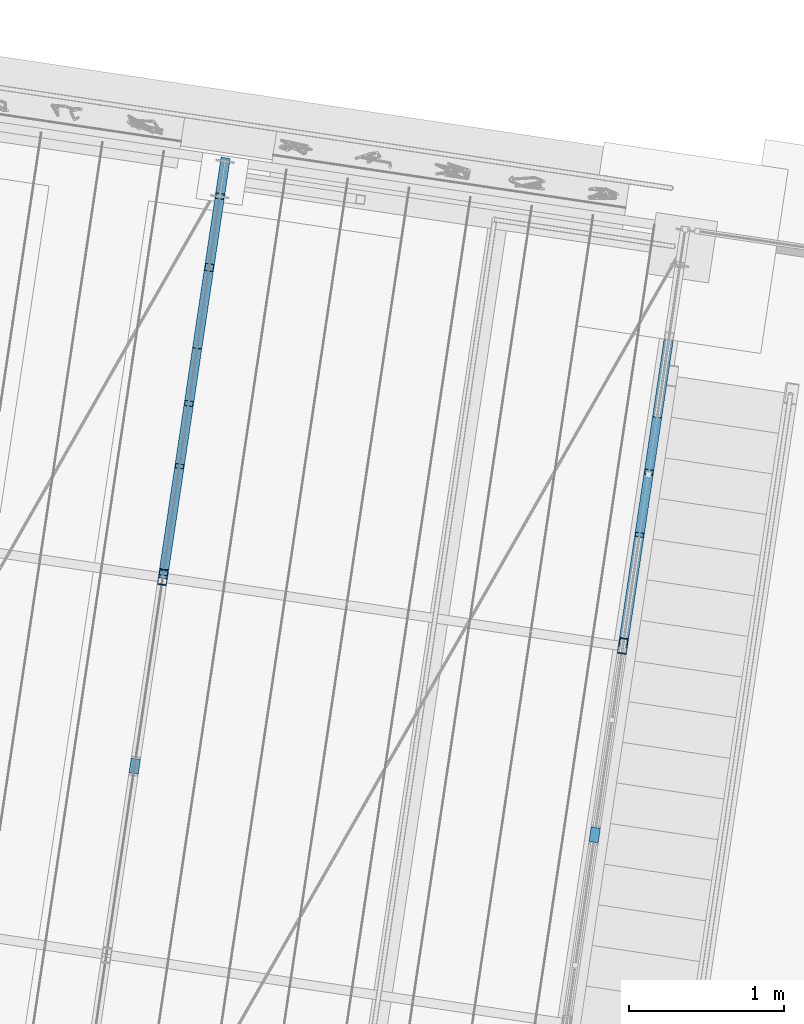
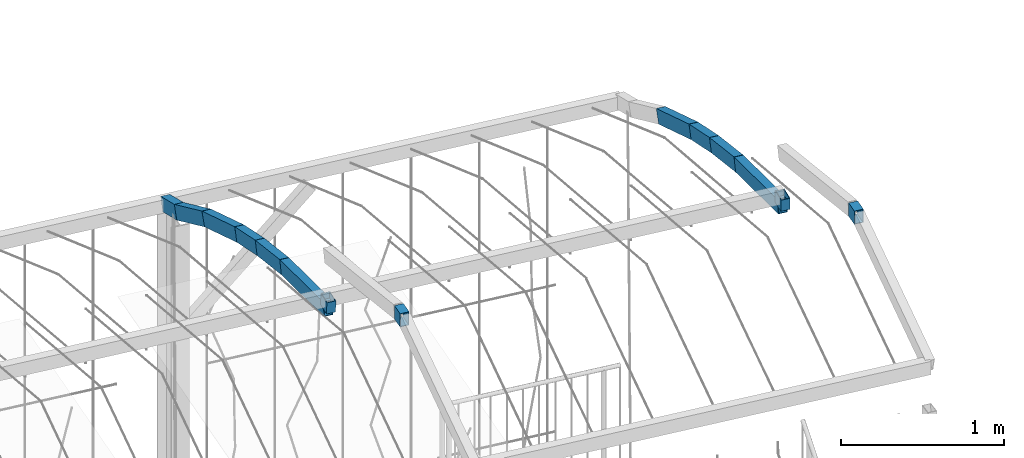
# One storey, part 108 of 142: 14 members, 1 element without a shape of its own.
"""IFC4 building model written with IfcOpenShell, lengths in metres."""

from ifc_helpers import new_model, si_unit, direction, frame, origin_with_axes, place, context, subcontext, project, spatial, hollow_rectangle, extrude, material, material_profile, profile_set, profile_usage, type_object, element, aggregate, save


model = new_model("IFC4")

# Units and contexts
model_context = context("Model", 3, precision=1e-05, world=origin_with_axes(), true_north=direction((0.0, 1.0)))
body_context = subcontext(model_context, "Body", "Model", "MODEL_VIEW")
ifc_project = project(units=[si_unit("VOLUMEUNIT", "CUBIC_METRE"), si_unit("LENGTHUNIT", "METRE"), si_unit("AREAUNIT", "SQUARE_METRE")], contexts=[model_context])

# Site, building, storey
site_placement = place(None, origin_with_axes())
site = spatial("IfcSite", under=ifc_project, at=site_placement, Name="Lares · Rua das Mercês · artigo 4771")
building_placement = place(site_placement, frame((12.0, 10.2, 13.9), z_axis=(0.0, 0.0, 1.0), x_axis=(0.989015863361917, -0.147809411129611, 0.0)))
building = spatial("IfcBuilding", under=site, at=building_placement, Name="Casa Sobreposta")
storey_placement = place(building_placement, origin_with_axes())
storey = spatial("IfcBuildingStorey", under=building, at=storey_placement, Name="00 · Habitação e estacionamento", Elevation=13.9)

# Assembly, members
assembly_placement = place(storey_placement, origin_with_axes())
assembly = element("IfcElementAssembly", 1, at=assembly_placement, inside=storey, Name="Pérgola · prolongamento da estufa 6 m", ObjectType="PERGOLA_GREENHOUSE_EXTENSION", PredefinedType="USERDEFINED")
ifc_material = material(Name="Aço pintado / Stahl lackiert", Category="steel")
ifc_material_profile = material_profile(ifc_material, hollow_rectangle(XDim=0.06, YDim=0.1, WallThickness=0.004))
ifc_profile_set = profile_set([ifc_material_profile], Name="RHS100x60x4")
ifc_profile_usage_1 = profile_usage(ifc_profile_set)
member_type = type_object("IfcMemberType", Name="RHS100x60x4 / steel", PredefinedType="NOTDEFINED", material=ifc_profile_set)
member_1_placement = place(assembly_placement, frame((-3.0, 2.40274082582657, 7.96518238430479), z_axis=(0.0, 1.0, 0.0), x_axis=(1.0, 0.0, 0.0)))
member_1 = element("IfcMember", 2, at=member_1_placement, type_object=member_type, material=ifc_profile_usage_1, Name="Pérgola · arco contínuo com a estufa", context=body_context, shape_type="SweptSolid", body=[
    extrude(hollow_rectangle(XDim=0.06, YDim=0.1, WallThickness=0.004), origin_with_axes(), (0.0, 0.0, 1.0), 0.0949594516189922),
])
ifc_profile_usage_2 = profile_usage(ifc_profile_set)
member_2_placement = place(assembly_placement, frame((-3.0, 3.68002089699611, 7.30067689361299), z_axis=(0.0, 0.0651953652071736, -0.997872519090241), x_axis=(1.0, 0.0, 0.0)))
member_2 = element("IfcMember", 3, at=member_2_placement, type_object=member_type, material=ifc_profile_usage_2, Name="Pérgola · arco contínuo com a estufa", context=body_context, shape_type="SweptSolid", body=[
    extrude(hollow_rectangle(XDim=0.06, YDim=0.1, WallThickness=0.004), origin_with_axes(), (0.0, 0.0, 1.0), 0.0875840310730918),
])
ifc_profile_usage_3 = profile_usage(ifc_profile_set)
member_3_placement = place(assembly_placement, frame((-3.0, 3.68573096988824, 7.21327919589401), z_axis=(0.0, 0.977996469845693, -0.208621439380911), x_axis=(1.0, 0.0, 0.0)))
member_3 = element("IfcMember", 4, at=member_3_placement, type_object=member_type, material=ifc_profile_usage_3, Name="Pérgola · arco contínuo com a estufa", context=body_context, shape_type="SweptSolid", body=[
    extrude(hollow_rectangle(XDim=0.06, YDim=0.1, WallThickness=0.004), origin_with_axes(), (0.0, 0.0, 1.0), 0.737400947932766),
])
ifc_profile_usage_4 = profile_usage(ifc_profile_set)
member_4_placement = place(assembly_placement, frame((-3.0, 4.40690649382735, 7.05944154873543), z_axis=(0.0, 0.958508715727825, -0.285063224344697), x_axis=(1.0, 0.0, 0.0)))
member_4 = element("IfcMember", 5, at=member_4_placement, type_object=member_type, material=ifc_profile_usage_4, Name="Pérgola · arco contínuo com a estufa", context=body_context, shape_type="SweptSolid", body=[
    extrude(hollow_rectangle(XDim=0.06, YDim=0.1, WallThickness=0.004), origin_with_axes(), (0.0, 0.0, 1.0), 0.426177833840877),
])
ifc_profile_usage_5 = profile_usage(ifc_profile_set)
member_5_placement = place(assembly_placement, frame((-3.0, 4.81540166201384, 6.93795392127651), z_axis=(0.0, 0.941396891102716, -0.337300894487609), x_axis=(1.0, 0.0, 0.0)))
member_5 = element("IfcMember", 6, at=member_5_placement, type_object=member_type, material=ifc_profile_usage_5, Name="Pérgola · arco contínuo com a estufa", context=body_context, shape_type="SweptSolid", body=[
    extrude(hollow_rectangle(XDim=0.06, YDim=0.1, WallThickness=0.004), origin_with_axes(), (0.0, 0.0, 1.0), 0.362337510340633),
])
ifc_profile_usage_6 = profile_usage(ifc_profile_set)
member_6_placement = place(assembly_placement, frame((-3.0, 5.15650506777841, 6.8157371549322), z_axis=(0.0, 0.915895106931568, -0.401417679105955), x_axis=(1.0, 0.0, 0.0)))
member_6 = element("IfcMember", 7, at=member_6_placement, type_object=member_type, material=ifc_profile_usage_6, Name="Pérgola · arco contínuo com a estufa", context=body_context, shape_type="SweptSolid", body=[
    extrude(hollow_rectangle(XDim=0.06, YDim=0.1, WallThickness=0.004), origin_with_axes(), (0.0, 0.0, 1.0), 0.596721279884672),
])
ifc_profile_usage_7 = profile_usage(ifc_profile_set)
member_7_placement = place(assembly_placement, frame((-3.0, 5.70303916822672, 6.57620268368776), z_axis=(0.0, 0.878867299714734, -0.477066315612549), x_axis=(1.0, 0.0, 0.0)))
member_7 = element("IfcMember", 8, at=member_7_placement, type_object=member_type, material=ifc_profile_usage_7, Name="Pérgola · arco contínuo com a estufa", context=body_context, shape_type="SweptSolid", body=[
    extrude(hollow_rectangle(XDim=0.06, YDim=0.1, WallThickness=0.004), origin_with_axes(), (0.0, 0.0, 1.0), 0.52859183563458),
])
ifc_profile_usage_8 = profile_usage(ifc_profile_set)
member_8_placement = place(assembly_placement, frame((-3.0, 6.16760124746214, 6.3240293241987), z_axis=(0.0, 0.932880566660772, -0.360185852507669), x_axis=(1.0, 0.0, 0.0)))
member_8 = element("IfcMember", 9, at=member_8_placement, type_object=member_type, material=ifc_profile_usage_8, Name="Pérgola · arco contínuo com a estufa", context=body_context, shape_type="SweptSolid", body=[
    extrude(hollow_rectangle(XDim=0.06, YDim=0.1, WallThickness=0.004), origin_with_axes(), (0.0, 0.0, 1.0), 0.249119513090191),
])
ifc_profile_usage_9 = profile_usage(ifc_profile_set)
member_9_placement = place(assembly_placement, frame((0.0, 2.40274082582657, 7.96518238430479), z_axis=(0.0, 1.0, 0.0), x_axis=(1.0, 0.0, 0.0)))
member_9 = element("IfcMember", 10, at=member_9_placement, type_object=member_type, material=ifc_profile_usage_9, Name="Pérgola · arco contínuo com a estufa", context=body_context, shape_type="SweptSolid", body=[
    extrude(hollow_rectangle(XDim=0.06, YDim=0.1, WallThickness=0.004), origin_with_axes(), (0.0, 0.0, 1.0), 0.0949594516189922),
])
ifc_profile_usage_10 = profile_usage(ifc_profile_set)
member_10_placement = place(assembly_placement, frame((0.0, 3.68002089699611, 7.30067689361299), z_axis=(0.0, 0.0651953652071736, -0.997872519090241), x_axis=(1.0, 0.0, 0.0)))
member_10 = element("IfcMember", 11, at=member_10_placement, type_object=member_type, material=ifc_profile_usage_10, Name="Pérgola · arco contínuo com a estufa", context=body_context, shape_type="SweptSolid", body=[
    extrude(hollow_rectangle(XDim=0.06, YDim=0.1, WallThickness=0.004), origin_with_axes(), (0.0, 0.0, 1.0), 0.0875840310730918),
])
ifc_profile_usage_11 = profile_usage(ifc_profile_set)
member_11_placement = place(assembly_placement, frame((0.0, 3.68573096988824, 7.21327919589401), z_axis=(0.0, 0.977996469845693, -0.208621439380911), x_axis=(1.0, 0.0, 0.0)))
member_11 = element("IfcMember", 12, at=member_11_placement, type_object=member_type, material=ifc_profile_usage_11, Name="Pérgola · arco contínuo com a estufa", context=body_context, shape_type="SweptSolid", body=[
    extrude(hollow_rectangle(XDim=0.06, YDim=0.1, WallThickness=0.004), origin_with_axes(), (0.0, 0.0, 1.0), 0.737400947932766),
])
ifc_profile_usage_12 = profile_usage(ifc_profile_set)
member_12_placement = place(assembly_placement, frame((0.0, 4.40690649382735, 7.05944154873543), z_axis=(0.0, 0.958508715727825, -0.285063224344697), x_axis=(1.0, 0.0, 0.0)))
member_12 = element("IfcMember", 13, at=member_12_placement, type_object=member_type, material=ifc_profile_usage_12, Name="Pérgola · arco contínuo com a estufa", context=body_context, shape_type="SweptSolid", body=[
    extrude(hollow_rectangle(XDim=0.06, YDim=0.1, WallThickness=0.004), origin_with_axes(), (0.0, 0.0, 1.0), 0.426177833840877),
])
ifc_profile_usage_13 = profile_usage(ifc_profile_set)
member_13_placement = place(assembly_placement, frame((0.0, 4.81540166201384, 6.93795392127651), z_axis=(0.0, 0.941396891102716, -0.337300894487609), x_axis=(1.0, 0.0, 0.0)))
member_13 = element("IfcMember", 14, at=member_13_placement, type_object=member_type, material=ifc_profile_usage_13, Name="Pérgola · arco contínuo com a estufa", context=body_context, shape_type="SweptSolid", body=[
    extrude(hollow_rectangle(XDim=0.06, YDim=0.1, WallThickness=0.004), origin_with_axes(), (0.0, 0.0, 1.0), 0.362337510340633),
])
ifc_profile_usage_14 = profile_usage(ifc_profile_set)
member_14_placement = place(assembly_placement, frame((0.0, 5.15650506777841, 6.8157371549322), z_axis=(0.0, 0.915895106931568, -0.401417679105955), x_axis=(1.0, 0.0, 0.0)))
member_14 = element("IfcMember", 15, at=member_14_placement, type_object=member_type, material=ifc_profile_usage_14, Name="Pérgola · arco contínuo com a estufa", context=body_context, shape_type="SweptSolid", body=[
    extrude(hollow_rectangle(XDim=0.06, YDim=0.1, WallThickness=0.004), origin_with_axes(), (0.0, 0.0, 1.0), 0.596721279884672),
])
aggregate(assembly, [member_1, member_2, member_3, member_4, member_5, member_6, member_7, member_8, member_9, member_10, member_11, member_12, member_13, member_14])

save(model, "model.ifc")
